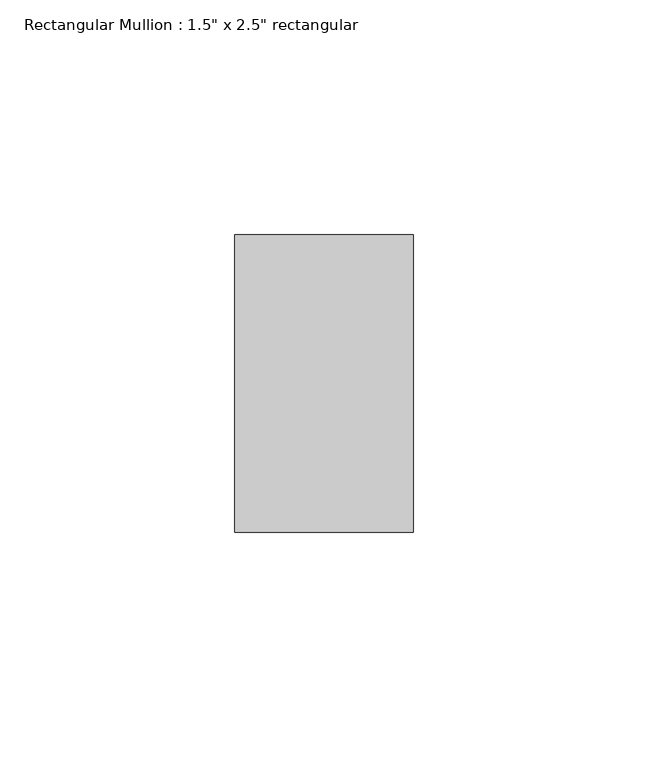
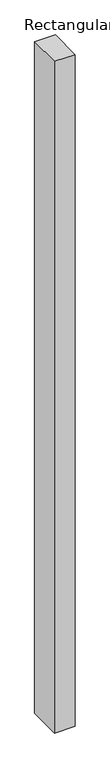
"""IFC4 building model written with IfcOpenShell, lengths in millimetres: member geometry."""

from ifc_helpers import new_model, si_unit, frame, origin, place, context, project, spatial, polyline, outline, extrude, source, transform, mapped, element, save


def member_30a30662(model_context):
    return source(origin(), model_context, "Body", "SweptSolid", [
        extrude(outline(polyline([(19.05, 31.75), (19.05, -31.75), (-19.05, -31.75), (-19.05, 31.75), (19.05, 31.75)])), frame((0.0, 0.0, -1310.8476318), z_axis=(0.0, 0.0, 1.0), x_axis=(1.0, 0.0, 0.0)), (0.0, 0.0, 1.0), 1310.8476318),
    ])


if __name__ == "__main__":
    model = new_model("IFC4")
    model_context = context("Model", 3, world=origin())
    ifc_project = project(units=[si_unit("LENGTHUNIT", "METRE", prefix="MILLI")], contexts=[model_context])
    site = spatial("IfcSite", under=ifc_project)
    building = spatial("IfcBuilding", under=site)
    placement = place(None, origin())
    member_shape = member_30a30662(model_context)
    element("IfcMember", 1, ObjectType="Rectangular Mullion : 1.5\" x 2.5\" rectangular", at=placement, inside=building, context=model_context, shape_type="MappedRepresentation", body=[
        mapped(member_shape, transform((0.0, 0.0, 0.0), x_axis=(1.0, 0.0, 0.0), y_axis=(0.0, 1.0, 0.0), z_axis=(0.0, 0.0, 1.0))),
    ])
    save(model, "model.ifc")
